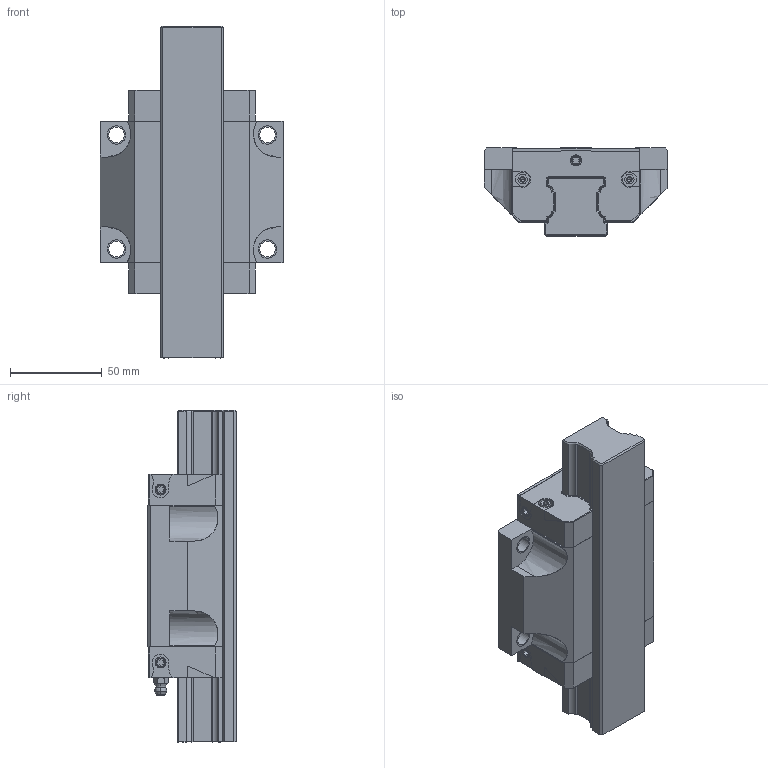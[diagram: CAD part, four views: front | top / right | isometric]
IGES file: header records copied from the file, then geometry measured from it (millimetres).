
Start section: 3D InterOp IGES (v. 2019 1.0.2), Spatial Corp. Copyright (c) 1999-2017.
Global section: file name: R2001_size35.igs; native system: Spatial Corp.; preprocessor: 3D InterOp GENERIC/IGES 3.0; author: Noname; organization: Noname; date: 20220629.154330; units: millimetre
Bounding box: 100 x 48 x 180.5 mm (x, y, z)
Surface area: 88447.2 mm2 (no closed solid volume)
Topology: 0 solids, 0 shells, 565 faces, 3008 edges, 2986 vertices
Faces by surface type: extrusion 314, revolution 251
